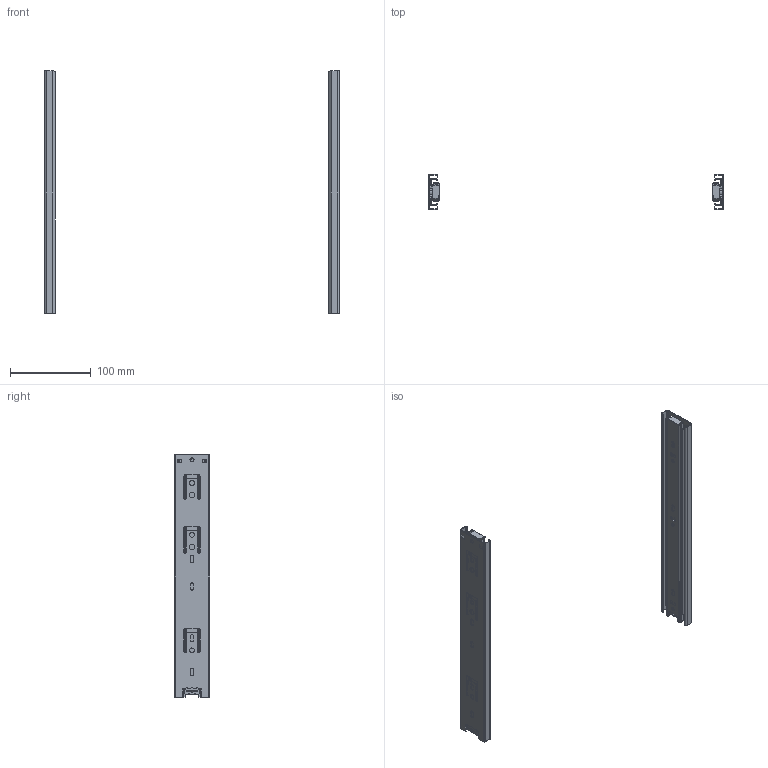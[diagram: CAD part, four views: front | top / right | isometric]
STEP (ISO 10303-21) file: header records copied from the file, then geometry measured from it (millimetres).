
FILE_DESCRIPTION(/* description */ (''),/* implementation_level */ '2;1');
FILE_NAME(/* name */ 'D:\$Workingspace\Designs\Katalog\Cadsoft\GTV Prowadnice\Prowadnice GTV_bryły 3D\PK-0H45300XP.stp',/* time_stamp */ '2016-11-22T12:25:45+01:00',/* author */ ('tomaszw'),/* organization */ (''),/* preprocessor_version */ 'ST-DEVELOPER v16.1',/* originating_system */ 'Autodesk Inventor 2016',/* authorisation */ '');
FILE_SCHEMA (('AUTOMOTIVE_DESIGN { 1 0 10303 214 3 1 1 }'));
Length unit declared in the file: millimetre
Products named in the file (5): Blokada_5; PK-0H45_1-300-XP; PK-0H45_2-300-XP; PK-0H45_3-300-XP; PK-0H45-_-XP
Assembly tree (8 placements, depth 2):
  PK-0H45-_-XP
    Blokada_5  x2
    PK-0H45_1-300-XP  x2
    PK-0H45_2-300-XP  x2
    PK-0H45_3-300-XP  x2
Bounding box: 364 x 43.7 x 300 mm (x, y, z)
Volume: 88538.3 mm3; surface area: 180300.6 mm2
Topology: 8 solids, 8 shells, 452 faces, 1300 edges, 864 vertices
Faces by surface type: cylinder 228, plane 220, cone 4
Full cylindrical faces by diameter (mm): 4.5 x6, 5 x2, 6 x6, 7 x4
Entity records: 7919 total; most frequent: CARTESIAN_POINT 1338, DIRECTION 1337, ORIENTED_EDGE 1282, EDGE_CURVE 641, AXIS2_PLACEMENT_3D 465, VERTEX_POINT 432, LINE 407, VECTOR 407
